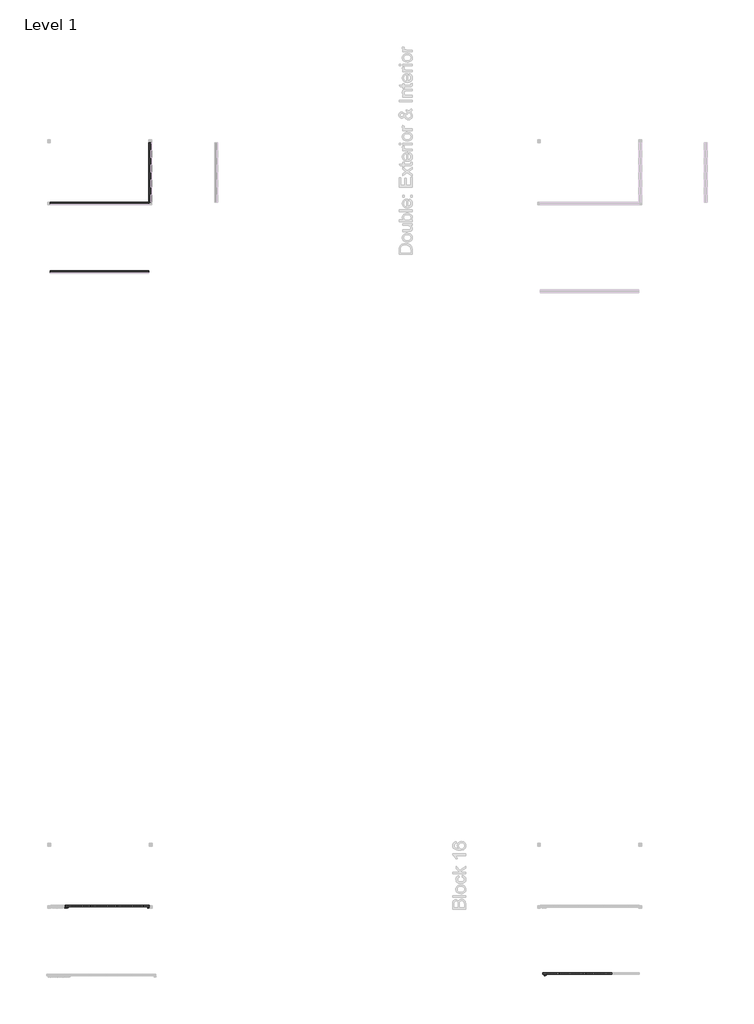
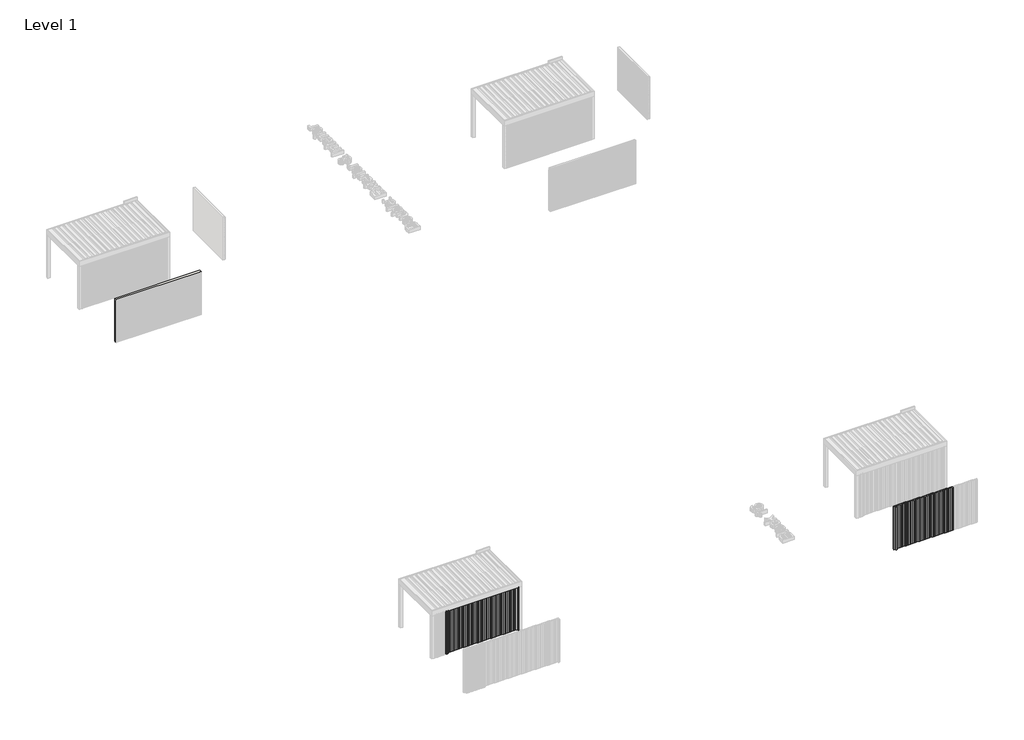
# One storey, part 2 of 47: 98 plates, 4 members, 3 walls.
"""IFC4 building model written with IfcOpenShell, lengths in millimetres."""

from ifc_helpers import new_model, si_unit, origin, origin_with_axes, place, context, project, spatial, polyline, outline, extrude, transform, mapped, element, save
from components import rectangular_mullion_d2d7e0ae, rectangular_mullion_72b57f38

model = new_model("IFC4")

# Units and contexts
model_context = context("Model", 3, world=origin())
ifc_project = project(units=[si_unit("LENGTHUNIT", "METRE", prefix="MILLI")], contexts=[model_context])

# Site, building, storey
site = spatial("IfcSite", under=ifc_project)
building = spatial("IfcBuilding", under=site)
storey = spatial("IfcBuildingStorey", under=building, Name="Level 1", Elevation=0.0)

# Members
placement = place(None, origin())
rectangular_mullion_shape = rectangular_mullion_d2d7e0ae(model_context)
element("IfcMember", 1, ObjectType="Rectangular Mullion : Renson_Linarte_LA-E25-01", at=placement, inside=storey, context=model_context, shape_type="MappedRepresentation", body=[
    mapped(rectangular_mullion_shape, transform((190202.4238388, 12609.3326462, 0.0), x_axis=(1.0, 0.0, 0.0), y_axis=(0.0, -1.0, 0.0), z_axis=(0.0, 0.0, -1.0))),
])
element("IfcMember", 2, ObjectType="Rectangular Mullion : Renson_Linarte_LA-E25-01", at=placement, inside=storey, context=model_context, shape_type="MappedRepresentation", body=[
    mapped(rectangular_mullion_shape, transform((187082.4238388, 12609.3326462, 0.0), x_axis=(1.0, 0.0, 0.0), y_axis=(0.0, -1.0, 0.0), z_axis=(0.0, 0.0, -1.0))),
])
element("IfcMember", 3, ObjectType="Rectangular Mullion : Renson_Linarte_LA-E25-01", at=placement, inside=storey, context=model_context, shape_type="MappedRepresentation", body=[
    mapped(rectangular_mullion_shape, transform((187022.4238388, 12609.3326462, 0.0), x_axis=(1.0, 0.0, 0.0), y_axis=(0.0, -1.0, 0.0), z_axis=(0.0, 0.0, -1.0))),
])
rectangular_mullion_2_shape = rectangular_mullion_72b57f38(model_context)
element("IfcMember", 4, ObjectType="Rectangular Mullion : Renson_Linarte_LA-B16-01", at=placement, inside=storey, context=model_context, shape_type="MappedRepresentation", body=[
    mapped(rectangular_mullion_2_shape, transform((205436.9839545, 10018.9412859, 0.0), x_axis=(1.0, 0.0, 0.0), y_axis=(0.0, -1.0, 0.0), z_axis=(0.0, 0.0, -1.0))),
])

# Plates
element("IfcPlate", 5, ObjectType="Base - 64mm", at=placement, inside=storey, context=model_context, shape_type="SweptSolid", body=[
    extrude(outline(polyline([(208016.9839545, 9986.9412859), (207956.9839545, 9986.9412859), (207956.9839545, 10050.9412859), (208016.9839545, 10050.9412859), (208016.9839545, 9986.9412859)])), origin_with_axes(), (0.0, 0.0, 1.0), 2000.0),
])
element("IfcPlate", 6, ObjectType="Base - 64mm", at=placement, inside=storey, context=model_context, shape_type="SweptSolid", body=[
    extrude(outline(polyline([(207956.9839545, 9986.9412859), (207896.9839545, 9986.9412859), (207896.9839545, 10050.9412859), (207956.9839545, 10050.9412859), (207956.9839545, 9986.9412859)])), origin_with_axes(), (0.0, 0.0, 1.0), 2000.0),
])
element("IfcPlate", 7, ObjectType="Base - 64mm", at=placement, inside=storey, context=model_context, shape_type="SweptSolid", body=[
    extrude(outline(polyline([(207896.9839545, 9986.9412859), (207836.9839545, 9986.9412859), (207836.9839545, 10050.9412859), (207896.9839545, 10050.9412859), (207896.9839545, 9986.9412859)])), origin_with_axes(), (0.0, 0.0, 1.0), 2000.0),
])
element("IfcPlate", 8, ObjectType="Base - 64mm", at=placement, inside=storey, context=model_context, shape_type="SweptSolid", body=[
    extrude(outline(polyline([(207836.9839545, 9986.9412859), (207776.9839545, 9986.9412859), (207776.9839545, 10050.9412859), (207836.9839545, 10050.9412859), (207836.9839545, 9986.9412859)])), origin_with_axes(), (0.0, 0.0, 1.0), 2000.0),
])
element("IfcPlate", 9, ObjectType="Base - 64mm", at=placement, inside=storey, context=model_context, shape_type="SweptSolid", body=[
    extrude(outline(polyline([(207776.9839545, 9986.9412859), (207716.9839545, 9986.9412859), (207716.9839545, 10050.9412859), (207776.9839545, 10050.9412859), (207776.9839545, 9986.9412859)])), origin_with_axes(), (0.0, 0.0, 1.0), 2000.0),
])
element("IfcPlate", 10, ObjectType="Base - 64mm", at=placement, inside=storey, context=model_context, shape_type="SweptSolid", body=[
    extrude(outline(polyline([(207716.9839545, 9986.9412859), (207656.9839545, 9986.9412859), (207656.9839545, 10050.9412859), (207716.9839545, 10050.9412859), (207716.9839545, 9986.9412859)])), origin_with_axes(), (0.0, 0.0, 1.0), 2000.0),
])
element("IfcPlate", 11, ObjectType="Base - 64mm", at=placement, inside=storey, context=model_context, shape_type="SweptSolid", body=[
    extrude(outline(polyline([(207656.9839545, 9986.9412859), (207596.9839545, 9986.9412859), (207596.9839545, 10050.9412859), (207656.9839545, 10050.9412859), (207656.9839545, 9986.9412859)])), origin_with_axes(), (0.0, 0.0, 1.0), 2000.0),
])
element("IfcPlate", 12, ObjectType="Base - 64mm", at=placement, inside=storey, context=model_context, shape_type="SweptSolid", body=[
    extrude(outline(polyline([(207596.9839545, 9986.9412859), (207536.9839545, 9986.9412859), (207536.9839545, 10050.9412859), (207596.9839545, 10050.9412859), (207596.9839545, 9986.9412859)])), origin_with_axes(), (0.0, 0.0, 1.0), 2000.0),
])
element("IfcPlate", 13, ObjectType="Base - 64mm", at=placement, inside=storey, context=model_context, shape_type="SweptSolid", body=[
    extrude(outline(polyline([(207536.9839545, 9986.9412859), (207476.9839545, 9986.9412859), (207476.9839545, 10050.9412859), (207536.9839545, 10050.9412859), (207536.9839545, 9986.9412859)])), origin_with_axes(), (0.0, 0.0, 1.0), 2000.0),
])
element("IfcPlate", 14, ObjectType="Base - 64mm", at=placement, inside=storey, context=model_context, shape_type="SweptSolid", body=[
    extrude(outline(polyline([(207476.9839545, 9986.9412859), (207416.9839545, 9986.9412859), (207416.9839545, 10050.9412859), (207476.9839545, 10050.9412859), (207476.9839545, 9986.9412859)])), origin_with_axes(), (0.0, 0.0, 1.0), 2000.0),
])
element("IfcPlate", 15, ObjectType="Base - 64mm", at=placement, inside=storey, context=model_context, shape_type="SweptSolid", body=[
    extrude(outline(polyline([(207416.9839545, 9986.9412859), (207356.9839545, 9986.9412859), (207356.9839545, 10050.9412859), (207416.9839545, 10050.9412859), (207416.9839545, 9986.9412859)])), origin_with_axes(), (0.0, 0.0, 1.0), 2000.0),
])
element("IfcPlate", 16, ObjectType="Base - 64mm", at=placement, inside=storey, context=model_context, shape_type="SweptSolid", body=[
    extrude(outline(polyline([(207356.9839545, 9986.9412859), (207296.9839545, 9986.9412859), (207296.9839545, 10050.9412859), (207356.9839545, 10050.9412859), (207356.9839545, 9986.9412859)])), origin_with_axes(), (0.0, 0.0, 1.0), 2000.0),
])
element("IfcPlate", 17, ObjectType="Base - 64mm", at=placement, inside=storey, context=model_context, shape_type="SweptSolid", body=[
    extrude(outline(polyline([(207296.9839545, 9986.9412859), (207236.9839545, 9986.9412859), (207236.9839545, 10050.9412859), (207296.9839545, 10050.9412859), (207296.9839545, 9986.9412859)])), origin_with_axes(), (0.0, 0.0, 1.0), 2000.0),
])
element("IfcPlate", 18, ObjectType="Base - 64mm", at=placement, inside=storey, context=model_context, shape_type="SweptSolid", body=[
    extrude(outline(polyline([(207236.9839545, 9986.9412859), (207176.9839545, 9986.9412859), (207176.9839545, 10050.9412859), (207236.9839545, 10050.9412859), (207236.9839545, 9986.9412859)])), origin_with_axes(), (0.0, 0.0, 1.0), 2000.0),
])
element("IfcPlate", 19, ObjectType="Base - 64mm", at=placement, inside=storey, context=model_context, shape_type="SweptSolid", body=[
    extrude(outline(polyline([(207176.9839545, 9986.9412859), (207116.9839545, 9986.9412859), (207116.9839545, 10050.9412859), (207176.9839545, 10050.9412859), (207176.9839545, 9986.9412859)])), origin_with_axes(), (0.0, 0.0, 1.0), 2000.0),
])
element("IfcPlate", 20, ObjectType="Base - 64mm", at=placement, inside=storey, context=model_context, shape_type="SweptSolid", body=[
    extrude(outline(polyline([(207116.9839545, 9986.9412859), (207056.9839545, 9986.9412859), (207056.9839545, 10050.9412859), (207116.9839545, 10050.9412859), (207116.9839545, 9986.9412859)])), origin_with_axes(), (0.0, 0.0, 1.0), 2000.0),
])
element("IfcPlate", 21, ObjectType="Base - 64mm", at=placement, inside=storey, context=model_context, shape_type="SweptSolid", body=[
    extrude(outline(polyline([(207056.9839545, 9986.9412859), (206996.9839545, 9986.9412859), (206996.9839545, 10050.9412859), (207056.9839545, 10050.9412859), (207056.9839545, 9986.9412859)])), origin_with_axes(), (0.0, 0.0, 1.0), 2000.0),
])
element("IfcPlate", 22, ObjectType="Base - 64mm", at=placement, inside=storey, context=model_context, shape_type="SweptSolid", body=[
    extrude(outline(polyline([(206996.9839545, 9986.9412859), (206936.9839545, 9986.9412859), (206936.9839545, 10050.9412859), (206996.9839545, 10050.9412859), (206996.9839545, 9986.9412859)])), origin_with_axes(), (0.0, 0.0, 1.0), 2000.0),
])
element("IfcPlate", 23, ObjectType="Base - 64mm", at=placement, inside=storey, context=model_context, shape_type="SweptSolid", body=[
    extrude(outline(polyline([(206936.9839545, 9986.9412859), (206876.9839545, 9986.9412859), (206876.9839545, 10050.9412859), (206936.9839545, 10050.9412859), (206936.9839545, 9986.9412859)])), origin_with_axes(), (0.0, 0.0, 1.0), 2000.0),
])
element("IfcPlate", 24, ObjectType="Base - 64mm", at=placement, inside=storey, context=model_context, shape_type="SweptSolid", body=[
    extrude(outline(polyline([(206876.9839545, 9986.9412859), (206816.9839545, 9986.9412859), (206816.9839545, 10050.9412859), (206876.9839545, 10050.9412859), (206876.9839545, 9986.9412859)])), origin_with_axes(), (0.0, 0.0, 1.0), 2000.0),
])
element("IfcPlate", 25, ObjectType="Base - 64mm", at=placement, inside=storey, context=model_context, shape_type="SweptSolid", body=[
    extrude(outline(polyline([(206816.9839545, 9986.9412859), (206756.9839545, 9986.9412859), (206756.9839545, 10050.9412859), (206816.9839545, 10050.9412859), (206816.9839545, 9986.9412859)])), origin_with_axes(), (0.0, 0.0, 1.0), 2000.0),
])
element("IfcPlate", 26, ObjectType="Base - 64mm", at=placement, inside=storey, context=model_context, shape_type="SweptSolid", body=[
    extrude(outline(polyline([(206756.9839545, 9986.9412859), (206696.9839545, 9986.9412859), (206696.9839545, 10050.9412859), (206756.9839545, 10050.9412859), (206756.9839545, 9986.9412859)])), origin_with_axes(), (0.0, 0.0, 1.0), 2000.0),
])
element("IfcPlate", 27, ObjectType="Base - 64mm", at=placement, inside=storey, context=model_context, shape_type="SweptSolid", body=[
    extrude(outline(polyline([(206696.9839545, 9986.9412859), (206636.9839545, 9986.9412859), (206636.9839545, 10050.9412859), (206696.9839545, 10050.9412859), (206696.9839545, 9986.9412859)])), origin_with_axes(), (0.0, 0.0, 1.0), 2000.0),
])
element("IfcPlate", 28, ObjectType="Base - 64mm", at=placement, inside=storey, context=model_context, shape_type="SweptSolid", body=[
    extrude(outline(polyline([(206636.9839545, 9986.9412859), (206576.9839545, 9986.9412859), (206576.9839545, 10050.9412859), (206636.9839545, 10050.9412859), (206636.9839545, 9986.9412859)])), origin_with_axes(), (0.0, 0.0, 1.0), 2000.0),
])
element("IfcPlate", 29, ObjectType="Base - 64mm", at=placement, inside=storey, context=model_context, shape_type="SweptSolid", body=[
    extrude(outline(polyline([(206576.9839545, 9986.9412859), (206516.9839545, 9986.9412859), (206516.9839545, 10050.9412859), (206576.9839545, 10050.9412859), (206576.9839545, 9986.9412859)])), origin_with_axes(), (0.0, 0.0, 1.0), 2000.0),
])
element("IfcPlate", 30, ObjectType="Base - 64mm", at=placement, inside=storey, context=model_context, shape_type="SweptSolid", body=[
    extrude(outline(polyline([(206516.9839545, 9986.9412859), (206456.9839545, 9986.9412859), (206456.9839545, 10050.9412859), (206516.9839545, 10050.9412859), (206516.9839545, 9986.9412859)])), origin_with_axes(), (0.0, 0.0, 1.0), 2000.0),
])
element("IfcPlate", 31, ObjectType="Base - 64mm", at=placement, inside=storey, context=model_context, shape_type="SweptSolid", body=[
    extrude(outline(polyline([(206456.9839545, 9986.9412859), (206396.9839545, 9986.9412859), (206396.9839545, 10050.9412859), (206456.9839545, 10050.9412859), (206456.9839545, 9986.9412859)])), origin_with_axes(), (0.0, 0.0, 1.0), 2000.0),
])
element("IfcPlate", 32, ObjectType="Base - 64mm", at=placement, inside=storey, context=model_context, shape_type="SweptSolid", body=[
    extrude(outline(polyline([(206396.9839545, 9986.9412859), (206336.9839545, 9986.9412859), (206336.9839545, 10050.9412859), (206396.9839545, 10050.9412859), (206396.9839545, 9986.9412859)])), origin_with_axes(), (0.0, 0.0, 1.0), 2000.0),
])
element("IfcPlate", 33, ObjectType="Base - 64mm", at=placement, inside=storey, context=model_context, shape_type="SweptSolid", body=[
    extrude(outline(polyline([(206336.9839545, 9986.9412859), (206276.9839545, 9986.9412859), (206276.9839545, 10050.9412859), (206336.9839545, 10050.9412859), (206336.9839545, 9986.9412859)])), origin_with_axes(), (0.0, 0.0, 1.0), 2000.0),
])
element("IfcPlate", 34, ObjectType="Base - 64mm", at=placement, inside=storey, context=model_context, shape_type="SweptSolid", body=[
    extrude(outline(polyline([(206276.9839545, 9986.9412859), (206216.9839545, 9986.9412859), (206216.9839545, 10050.9412859), (206276.9839545, 10050.9412859), (206276.9839545, 9986.9412859)])), origin_with_axes(), (0.0, 0.0, 1.0), 2000.0),
])
element("IfcPlate", 35, ObjectType="Base - 64mm", at=placement, inside=storey, context=model_context, shape_type="SweptSolid", body=[
    extrude(outline(polyline([(206216.9839545, 9986.9412859), (206156.9839545, 9986.9412859), (206156.9839545, 10050.9412859), (206216.9839545, 10050.9412859), (206216.9839545, 9986.9412859)])), origin_with_axes(), (0.0, 0.0, 1.0), 2000.0),
])
element("IfcPlate", 36, ObjectType="Base - 64mm", at=placement, inside=storey, context=model_context, shape_type="SweptSolid", body=[
    extrude(outline(polyline([(206156.9839545, 9986.9412859), (206096.9839545, 9986.9412859), (206096.9839545, 10050.9412859), (206156.9839545, 10050.9412859), (206156.9839545, 9986.9412859)])), origin_with_axes(), (0.0, 0.0, 1.0), 2000.0),
])
element("IfcPlate", 37, ObjectType="Base - 64mm", at=placement, inside=storey, context=model_context, shape_type="SweptSolid", body=[
    extrude(outline(polyline([(206096.9839545, 9986.9412859), (206036.9839545, 9986.9412859), (206036.9839545, 10050.9412859), (206096.9839545, 10050.9412859), (206096.9839545, 9986.9412859)])), origin_with_axes(), (0.0, 0.0, 1.0), 2000.0),
])
element("IfcPlate", 38, ObjectType="Base - 64mm", at=placement, inside=storey, context=model_context, shape_type="SweptSolid", body=[
    extrude(outline(polyline([(206036.9839545, 9986.9412859), (205976.9839545, 9986.9412859), (205976.9839545, 10050.9412859), (206036.9839545, 10050.9412859), (206036.9839545, 9986.9412859)])), origin_with_axes(), (0.0, 0.0, 1.0), 2000.0),
])
element("IfcPlate", 39, ObjectType="Base - 64mm", at=placement, inside=storey, context=model_context, shape_type="SweptSolid", body=[
    extrude(outline(polyline([(205976.9839545, 9986.9412859), (205916.9839545, 9986.9412859), (205916.9839545, 10050.9412859), (205976.9839545, 10050.9412859), (205976.9839545, 9986.9412859)])), origin_with_axes(), (0.0, 0.0, 1.0), 2000.0),
])
element("IfcPlate", 40, ObjectType="Base - 64mm", at=placement, inside=storey, context=model_context, shape_type="SweptSolid", body=[
    extrude(outline(polyline([(205916.9839545, 9986.9412859), (205856.9839545, 9986.9412859), (205856.9839545, 10050.9412859), (205916.9839545, 10050.9412859), (205916.9839545, 9986.9412859)])), origin_with_axes(), (0.0, 0.0, 1.0), 2000.0),
])
element("IfcPlate", 41, ObjectType="Base - 64mm", at=placement, inside=storey, context=model_context, shape_type="SweptSolid", body=[
    extrude(outline(polyline([(205856.9839545, 9986.9412859), (205796.9839545, 9986.9412859), (205796.9839545, 10050.9412859), (205856.9839545, 10050.9412859), (205856.9839545, 9986.9412859)])), origin_with_axes(), (0.0, 0.0, 1.0), 2000.0),
])
element("IfcPlate", 42, ObjectType="Base - 64mm", at=placement, inside=storey, context=model_context, shape_type="SweptSolid", body=[
    extrude(outline(polyline([(205796.9839545, 9986.9412859), (205736.9839545, 9986.9412859), (205736.9839545, 10050.9412859), (205796.9839545, 10050.9412859), (205796.9839545, 9986.9412859)])), origin_with_axes(), (0.0, 0.0, 1.0), 2000.0),
])
element("IfcPlate", 43, ObjectType="Base - 64mm", at=placement, inside=storey, context=model_context, shape_type="SweptSolid", body=[
    extrude(outline(polyline([(205736.9839545, 9986.9412859), (205676.9839545, 9986.9412859), (205676.9839545, 10050.9412859), (205736.9839545, 10050.9412859), (205736.9839545, 9986.9412859)])), origin_with_axes(), (0.0, 0.0, 1.0), 2000.0),
])
element("IfcPlate", 44, ObjectType="Base - 64mm", at=placement, inside=storey, context=model_context, shape_type="SweptSolid", body=[
    extrude(outline(polyline([(205676.9839545, 9986.9412859), (205616.9839545, 9986.9412859), (205616.9839545, 10050.9412859), (205676.9839545, 10050.9412859), (205676.9839545, 9986.9412859)])), origin_with_axes(), (0.0, 0.0, 1.0), 2000.0),
])
element("IfcPlate", 45, ObjectType="Base - 64mm", at=placement, inside=storey, context=model_context, shape_type="SweptSolid", body=[
    extrude(outline(polyline([(205616.9839545, 9986.9412859), (205556.9839545, 9986.9412859), (205556.9839545, 10050.9412859), (205616.9839545, 10050.9412859), (205616.9839545, 9986.9412859)])), origin_with_axes(), (0.0, 0.0, 1.0), 2000.0),
])
element("IfcPlate", 46, ObjectType="Base - 64mm", at=placement, inside=storey, context=model_context, shape_type="SweptSolid", body=[
    extrude(outline(polyline([(205556.9839545, 9986.9412859), (205496.9839545, 9986.9412859), (205496.9839545, 10050.9412859), (205556.9839545, 10050.9412859), (205556.9839545, 9986.9412859)])), origin_with_axes(), (0.0, 0.0, 1.0), 2000.0),
])
element("IfcPlate", 47, ObjectType="Base - 64mm", at=placement, inside=storey, context=model_context, shape_type="SweptSolid", body=[
    extrude(outline(polyline([(190202.4238388, 12577.3326462), (190142.4238388, 12577.3326462), (190142.4238388, 12641.3326462), (190202.4238388, 12641.3326462), (190202.4238388, 12577.3326462)])), origin_with_axes(), (0.0, 0.0, 1.0), 2000.0),
])
element("IfcPlate", 48, ObjectType="Base - 64mm", at=placement, inside=storey, context=model_context, shape_type="SweptSolid", body=[
    extrude(outline(polyline([(190142.4238388, 12577.3326462), (190082.4238388, 12577.3326462), (190082.4238388, 12641.3326462), (190142.4238388, 12641.3326462), (190142.4238388, 12577.3326462)])), origin_with_axes(), (0.0, 0.0, 1.0), 2000.0),
])
element("IfcPlate", 49, ObjectType="Base - 64mm", at=placement, inside=storey, context=model_context, shape_type="SweptSolid", body=[
    extrude(outline(polyline([(190082.4238388, 12577.3326462), (190022.4238388, 12577.3326462), (190022.4238388, 12641.3326462), (190082.4238388, 12641.3326462), (190082.4238388, 12577.3326462)])), origin_with_axes(), (0.0, 0.0, 1.0), 2000.0),
])
element("IfcPlate", 50, ObjectType="Base - 64mm", at=placement, inside=storey, context=model_context, shape_type="SweptSolid", body=[
    extrude(outline(polyline([(190022.4238388, 12577.3326462), (189962.4238388, 12577.3326462), (189962.4238388, 12641.3326462), (190022.4238388, 12641.3326462), (190022.4238388, 12577.3326462)])), origin_with_axes(), (0.0, 0.0, 1.0), 2000.0),
])
element("IfcPlate", 51, ObjectType="Base - 64mm", at=placement, inside=storey, context=model_context, shape_type="SweptSolid", body=[
    extrude(outline(polyline([(189962.4238388, 12577.3326462), (189902.4238388, 12577.3326462), (189902.4238388, 12641.3326462), (189962.4238388, 12641.3326462), (189962.4238388, 12577.3326462)])), origin_with_axes(), (0.0, 0.0, 1.0), 2000.0),
])
element("IfcPlate", 52, ObjectType="Base - 64mm", at=placement, inside=storey, context=model_context, shape_type="SweptSolid", body=[
    extrude(outline(polyline([(189902.4238388, 12577.3326462), (189842.4238388, 12577.3326462), (189842.4238388, 12641.3326462), (189902.4238388, 12641.3326462), (189902.4238388, 12577.3326462)])), origin_with_axes(), (0.0, 0.0, 1.0), 2000.0),
])
element("IfcPlate", 53, ObjectType="Base - 64mm", at=placement, inside=storey, context=model_context, shape_type="SweptSolid", body=[
    extrude(outline(polyline([(189842.4238388, 12577.3326462), (189782.4238388, 12577.3326462), (189782.4238388, 12641.3326462), (189842.4238388, 12641.3326462), (189842.4238388, 12577.3326462)])), origin_with_axes(), (0.0, 0.0, 1.0), 2000.0),
])
element("IfcPlate", 54, ObjectType="Base - 64mm", at=placement, inside=storey, context=model_context, shape_type="SweptSolid", body=[
    extrude(outline(polyline([(189782.4238388, 12577.3326462), (189722.4238388, 12577.3326462), (189722.4238388, 12641.3326462), (189782.4238388, 12641.3326462), (189782.4238388, 12577.3326462)])), origin_with_axes(), (0.0, 0.0, 1.0), 2000.0),
])
element("IfcPlate", 55, ObjectType="Base - 64mm", at=placement, inside=storey, context=model_context, shape_type="SweptSolid", body=[
    extrude(outline(polyline([(189722.4238388, 12577.3326462), (189662.4238388, 12577.3326462), (189662.4238388, 12641.3326462), (189722.4238388, 12641.3326462), (189722.4238388, 12577.3326462)])), origin_with_axes(), (0.0, 0.0, 1.0), 2000.0),
])
element("IfcPlate", 56, ObjectType="Base - 64mm", at=placement, inside=storey, context=model_context, shape_type="SweptSolid", body=[
    extrude(outline(polyline([(189662.4238388, 12577.3326462), (189602.4238388, 12577.3326462), (189602.4238388, 12641.3326462), (189662.4238388, 12641.3326462), (189662.4238388, 12577.3326462)])), origin_with_axes(), (0.0, 0.0, 1.0), 2000.0),
])
element("IfcPlate", 57, ObjectType="Base - 64mm", at=placement, inside=storey, context=model_context, shape_type="SweptSolid", body=[
    extrude(outline(polyline([(189602.4238388, 12577.3326462), (189542.4238388, 12577.3326462), (189542.4238388, 12641.3326462), (189602.4238388, 12641.3326462), (189602.4238388, 12577.3326462)])), origin_with_axes(), (0.0, 0.0, 1.0), 2000.0),
])
element("IfcPlate", 58, ObjectType="Base - 64mm", at=placement, inside=storey, context=model_context, shape_type="SweptSolid", body=[
    extrude(outline(polyline([(189542.4238388, 12577.3326462), (189482.4238388, 12577.3326462), (189482.4238388, 12641.3326462), (189542.4238388, 12641.3326462), (189542.4238388, 12577.3326462)])), origin_with_axes(), (0.0, 0.0, 1.0), 2000.0),
])
element("IfcPlate", 59, ObjectType="Base - 64mm", at=placement, inside=storey, context=model_context, shape_type="SweptSolid", body=[
    extrude(outline(polyline([(189482.4238388, 12577.3326462), (189422.4238388, 12577.3326462), (189422.4238388, 12641.3326462), (189482.4238388, 12641.3326462), (189482.4238388, 12577.3326462)])), origin_with_axes(), (0.0, 0.0, 1.0), 2000.0),
])
element("IfcPlate", 60, ObjectType="Base - 64mm", at=placement, inside=storey, context=model_context, shape_type="SweptSolid", body=[
    extrude(outline(polyline([(189422.4238388, 12577.3326462), (189362.4238388, 12577.3326462), (189362.4238388, 12641.3326462), (189422.4238388, 12641.3326462), (189422.4238388, 12577.3326462)])), origin_with_axes(), (0.0, 0.0, 1.0), 2000.0),
])
element("IfcPlate", 61, ObjectType="Base - 64mm", at=placement, inside=storey, context=model_context, shape_type="SweptSolid", body=[
    extrude(outline(polyline([(189362.4238388, 12577.3326462), (189302.4238388, 12577.3326462), (189302.4238388, 12641.3326462), (189362.4238388, 12641.3326462), (189362.4238388, 12577.3326462)])), origin_with_axes(), (0.0, 0.0, 1.0), 2000.0),
])
element("IfcPlate", 62, ObjectType="Base - 64mm", at=placement, inside=storey, context=model_context, shape_type="SweptSolid", body=[
    extrude(outline(polyline([(189302.4238388, 12577.3326462), (189242.4238388, 12577.3326462), (189242.4238388, 12641.3326462), (189302.4238388, 12641.3326462), (189302.4238388, 12577.3326462)])), origin_with_axes(), (0.0, 0.0, 1.0), 2000.0),
])
element("IfcPlate", 63, ObjectType="Base - 64mm", at=placement, inside=storey, context=model_context, shape_type="SweptSolid", body=[
    extrude(outline(polyline([(189242.4238388, 12577.3326462), (189182.4238388, 12577.3326462), (189182.4238388, 12641.3326462), (189242.4238388, 12641.3326462), (189242.4238388, 12577.3326462)])), origin_with_axes(), (0.0, 0.0, 1.0), 2000.0),
])
element("IfcPlate", 64, ObjectType="Base - 64mm", at=placement, inside=storey, context=model_context, shape_type="SweptSolid", body=[
    extrude(outline(polyline([(189182.4238388, 12577.3326462), (189122.4238388, 12577.3326462), (189122.4238388, 12641.3326462), (189182.4238388, 12641.3326462), (189182.4238388, 12577.3326462)])), origin_with_axes(), (0.0, 0.0, 1.0), 2000.0),
])
element("IfcPlate", 65, ObjectType="Base - 64mm", at=placement, inside=storey, context=model_context, shape_type="SweptSolid", body=[
    extrude(outline(polyline([(189122.4238388, 12577.3326462), (189062.4238388, 12577.3326462), (189062.4238388, 12641.3326462), (189122.4238388, 12641.3326462), (189122.4238388, 12577.3326462)])), origin_with_axes(), (0.0, 0.0, 1.0), 2000.0),
])
element("IfcPlate", 66, ObjectType="Base - 64mm", at=placement, inside=storey, context=model_context, shape_type="SweptSolid", body=[
    extrude(outline(polyline([(189062.4238388, 12577.3326462), (189002.4238388, 12577.3326462), (189002.4238388, 12641.3326462), (189062.4238388, 12641.3326462), (189062.4238388, 12577.3326462)])), origin_with_axes(), (0.0, 0.0, 1.0), 2000.0),
])
element("IfcPlate", 67, ObjectType="Base - 64mm", at=placement, inside=storey, context=model_context, shape_type="SweptSolid", body=[
    extrude(outline(polyline([(189002.4238388, 12577.3326462), (188942.4238388, 12577.3326462), (188942.4238388, 12641.3326462), (189002.4238388, 12641.3326462), (189002.4238388, 12577.3326462)])), origin_with_axes(), (0.0, 0.0, 1.0), 2000.0),
])
element("IfcPlate", 68, ObjectType="Base - 64mm", at=placement, inside=storey, context=model_context, shape_type="SweptSolid", body=[
    extrude(outline(polyline([(188942.4238388, 12577.3326462), (188882.4238388, 12577.3326462), (188882.4238388, 12641.3326462), (188942.4238388, 12641.3326462), (188942.4238388, 12577.3326462)])), origin_with_axes(), (0.0, 0.0, 1.0), 2000.0),
])
element("IfcPlate", 69, ObjectType="Base - 64mm", at=placement, inside=storey, context=model_context, shape_type="SweptSolid", body=[
    extrude(outline(polyline([(188882.4238388, 12577.3326462), (188822.4238388, 12577.3326462), (188822.4238388, 12641.3326462), (188882.4238388, 12641.3326462), (188882.4238388, 12577.3326462)])), origin_with_axes(), (0.0, 0.0, 1.0), 2000.0),
])
element("IfcPlate", 70, ObjectType="Base - 64mm", at=placement, inside=storey, context=model_context, shape_type="SweptSolid", body=[
    extrude(outline(polyline([(188822.4238388, 12577.3326462), (188762.4238388, 12577.3326462), (188762.4238388, 12641.3326462), (188822.4238388, 12641.3326462), (188822.4238388, 12577.3326462)])), origin_with_axes(), (0.0, 0.0, 1.0), 2000.0),
])
element("IfcPlate", 71, ObjectType="Base - 64mm", at=placement, inside=storey, context=model_context, shape_type="SweptSolid", body=[
    extrude(outline(polyline([(188762.4238388, 12577.3326462), (188702.4238388, 12577.3326462), (188702.4238388, 12641.3326462), (188762.4238388, 12641.3326462), (188762.4238388, 12577.3326462)])), origin_with_axes(), (0.0, 0.0, 1.0), 2000.0),
])
element("IfcPlate", 72, ObjectType="Base - 64mm", at=placement, inside=storey, context=model_context, shape_type="SweptSolid", body=[
    extrude(outline(polyline([(188702.4238388, 12577.3326462), (188642.4238388, 12577.3326462), (188642.4238388, 12641.3326462), (188702.4238388, 12641.3326462), (188702.4238388, 12577.3326462)])), origin_with_axes(), (0.0, 0.0, 1.0), 2000.0),
])
element("IfcPlate", 73, ObjectType="Base - 64mm", at=placement, inside=storey, context=model_context, shape_type="SweptSolid", body=[
    extrude(outline(polyline([(188642.4238388, 12577.3326462), (188582.4238388, 12577.3326462), (188582.4238388, 12641.3326462), (188642.4238388, 12641.3326462), (188642.4238388, 12577.3326462)])), origin_with_axes(), (0.0, 0.0, 1.0), 2000.0),
])
element("IfcPlate", 74, ObjectType="Base - 64mm", at=placement, inside=storey, context=model_context, shape_type="SweptSolid", body=[
    extrude(outline(polyline([(188582.4238388, 12577.3326462), (188522.4238388, 12577.3326462), (188522.4238388, 12641.3326462), (188582.4238388, 12641.3326462), (188582.4238388, 12577.3326462)])), origin_with_axes(), (0.0, 0.0, 1.0), 2000.0),
])
element("IfcPlate", 75, ObjectType="Base - 64mm", at=placement, inside=storey, context=model_context, shape_type="SweptSolid", body=[
    extrude(outline(polyline([(188522.4238388, 12577.3326462), (188462.4238388, 12577.3326462), (188462.4238388, 12641.3326462), (188522.4238388, 12641.3326462), (188522.4238388, 12577.3326462)])), origin_with_axes(), (0.0, 0.0, 1.0), 2000.0),
])
element("IfcPlate", 76, ObjectType="Base - 64mm", at=placement, inside=storey, context=model_context, shape_type="SweptSolid", body=[
    extrude(outline(polyline([(188462.4238388, 12577.3326462), (188402.4238388, 12577.3326462), (188402.4238388, 12641.3326462), (188462.4238388, 12641.3326462), (188462.4238388, 12577.3326462)])), origin_with_axes(), (0.0, 0.0, 1.0), 2000.0),
])
element("IfcPlate", 77, ObjectType="Base - 64mm", at=placement, inside=storey, context=model_context, shape_type="SweptSolid", body=[
    extrude(outline(polyline([(188402.4238388, 12577.3326462), (188342.4238388, 12577.3326462), (188342.4238388, 12641.3326462), (188402.4238388, 12641.3326462), (188402.4238388, 12577.3326462)])), origin_with_axes(), (0.0, 0.0, 1.0), 2000.0),
])
element("IfcPlate", 78, ObjectType="Base - 64mm", at=placement, inside=storey, context=model_context, shape_type="SweptSolid", body=[
    extrude(outline(polyline([(188342.4238388, 12577.3326462), (188282.4238388, 12577.3326462), (188282.4238388, 12641.3326462), (188342.4238388, 12641.3326462), (188342.4238388, 12577.3326462)])), origin_with_axes(), (0.0, 0.0, 1.0), 2000.0),
])
element("IfcPlate", 79, ObjectType="Base - 64mm", at=placement, inside=storey, context=model_context, shape_type="SweptSolid", body=[
    extrude(outline(polyline([(188282.4238388, 12577.3326462), (188222.4238388, 12577.3326462), (188222.4238388, 12641.3326462), (188282.4238388, 12641.3326462), (188282.4238388, 12577.3326462)])), origin_with_axes(), (0.0, 0.0, 1.0), 2000.0),
])
element("IfcPlate", 80, ObjectType="Base - 64mm", at=placement, inside=storey, context=model_context, shape_type="SweptSolid", body=[
    extrude(outline(polyline([(188222.4238388, 12577.3326462), (188162.4238388, 12577.3326462), (188162.4238388, 12641.3326462), (188222.4238388, 12641.3326462), (188222.4238388, 12577.3326462)])), origin_with_axes(), (0.0, 0.0, 1.0), 2000.0),
])
element("IfcPlate", 81, ObjectType="Base - 64mm", at=placement, inside=storey, context=model_context, shape_type="SweptSolid", body=[
    extrude(outline(polyline([(188162.4238388, 12577.3326462), (188102.4238388, 12577.3326462), (188102.4238388, 12641.3326462), (188162.4238388, 12641.3326462), (188162.4238388, 12577.3326462)])), origin_with_axes(), (0.0, 0.0, 1.0), 2000.0),
])
element("IfcPlate", 82, ObjectType="Base - 64mm", at=placement, inside=storey, context=model_context, shape_type="SweptSolid", body=[
    extrude(outline(polyline([(188102.4238388, 12577.3326462), (188042.4238388, 12577.3326462), (188042.4238388, 12641.3326462), (188102.4238388, 12641.3326462), (188102.4238388, 12577.3326462)])), origin_with_axes(), (0.0, 0.0, 1.0), 2000.0),
])
element("IfcPlate", 83, ObjectType="Base - 64mm", at=placement, inside=storey, context=model_context, shape_type="SweptSolid", body=[
    extrude(outline(polyline([(188042.4238388, 12577.3326462), (187982.4238388, 12577.3326462), (187982.4238388, 12641.3326462), (188042.4238388, 12641.3326462), (188042.4238388, 12577.3326462)])), origin_with_axes(), (0.0, 0.0, 1.0), 2000.0),
])
element("IfcPlate", 84, ObjectType="Base - 64mm", at=placement, inside=storey, context=model_context, shape_type="SweptSolid", body=[
    extrude(outline(polyline([(187982.4238388, 12577.3326462), (187922.4238388, 12577.3326462), (187922.4238388, 12641.3326462), (187982.4238388, 12641.3326462), (187982.4238388, 12577.3326462)])), origin_with_axes(), (0.0, 0.0, 1.0), 2000.0),
])
element("IfcPlate", 85, ObjectType="Base - 64mm", at=placement, inside=storey, context=model_context, shape_type="SweptSolid", body=[
    extrude(outline(polyline([(187922.4238388, 12577.3326462), (187862.4238388, 12577.3326462), (187862.4238388, 12641.3326462), (187922.4238388, 12641.3326462), (187922.4238388, 12577.3326462)])), origin_with_axes(), (0.0, 0.0, 1.0), 2000.0),
])
element("IfcPlate", 86, ObjectType="Base - 64mm", at=placement, inside=storey, context=model_context, shape_type="SweptSolid", body=[
    extrude(outline(polyline([(187862.4238388, 12577.3326462), (187802.4238388, 12577.3326462), (187802.4238388, 12641.3326462), (187862.4238388, 12641.3326462), (187862.4238388, 12577.3326462)])), origin_with_axes(), (0.0, 0.0, 1.0), 2000.0),
])
element("IfcPlate", 87, ObjectType="Base - 64mm", at=placement, inside=storey, context=model_context, shape_type="SweptSolid", body=[
    extrude(outline(polyline([(187802.4238388, 12577.3326462), (187742.4238388, 12577.3326462), (187742.4238388, 12641.3326462), (187802.4238388, 12641.3326462), (187802.4238388, 12577.3326462)])), origin_with_axes(), (0.0, 0.0, 1.0), 2000.0),
])
element("IfcPlate", 88, ObjectType="Base - 64mm", at=placement, inside=storey, context=model_context, shape_type="SweptSolid", body=[
    extrude(outline(polyline([(187742.4238388, 12577.3326462), (187682.4238388, 12577.3326462), (187682.4238388, 12641.3326462), (187742.4238388, 12641.3326462), (187742.4238388, 12577.3326462)])), origin_with_axes(), (0.0, 0.0, 1.0), 2000.0),
])
element("IfcPlate", 89, ObjectType="Base - 64mm", at=placement, inside=storey, context=model_context, shape_type="SweptSolid", body=[
    extrude(outline(polyline([(187682.4238388, 12577.3326462), (187622.4238388, 12577.3326462), (187622.4238388, 12641.3326462), (187682.4238388, 12641.3326462), (187682.4238388, 12577.3326462)])), origin_with_axes(), (0.0, 0.0, 1.0), 2000.0),
])
element("IfcPlate", 90, ObjectType="Base - 64mm", at=placement, inside=storey, context=model_context, shape_type="SweptSolid", body=[
    extrude(outline(polyline([(187622.4238388, 12577.3326462), (187562.4238388, 12577.3326462), (187562.4238388, 12641.3326462), (187622.4238388, 12641.3326462), (187622.4238388, 12577.3326462)])), origin_with_axes(), (0.0, 0.0, 1.0), 2000.0),
])
element("IfcPlate", 91, ObjectType="Base - 64mm", at=placement, inside=storey, context=model_context, shape_type="SweptSolid", body=[
    extrude(outline(polyline([(187562.4238388, 12577.3326462), (187502.4238388, 12577.3326462), (187502.4238388, 12641.3326462), (187562.4238388, 12641.3326462), (187562.4238388, 12577.3326462)])), origin_with_axes(), (0.0, 0.0, 1.0), 2000.0),
])
element("IfcPlate", 92, ObjectType="Base - 64mm", at=placement, inside=storey, context=model_context, shape_type="SweptSolid", body=[
    extrude(outline(polyline([(187502.4238388, 12577.3326462), (187442.4238388, 12577.3326462), (187442.4238388, 12641.3326462), (187502.4238388, 12641.3326462), (187502.4238388, 12577.3326462)])), origin_with_axes(), (0.0, 0.0, 1.0), 2000.0),
])
element("IfcPlate", 93, ObjectType="Base - 64mm", at=placement, inside=storey, context=model_context, shape_type="SweptSolid", body=[
    extrude(outline(polyline([(187442.4238388, 12577.3326462), (187382.4238388, 12577.3326462), (187382.4238388, 12641.3326462), (187442.4238388, 12641.3326462), (187442.4238388, 12577.3326462)])), origin_with_axes(), (0.0, 0.0, 1.0), 2000.0),
])
element("IfcPlate", 94, ObjectType="Base - 64mm", at=placement, inside=storey, context=model_context, shape_type="SweptSolid", body=[
    extrude(outline(polyline([(187382.4238388, 12577.3326462), (187322.4238388, 12577.3326462), (187322.4238388, 12641.3326462), (187382.4238388, 12641.3326462), (187382.4238388, 12577.3326462)])), origin_with_axes(), (0.0, 0.0, 1.0), 2000.0),
])
element("IfcPlate", 95, ObjectType="Base - 64mm", at=placement, inside=storey, context=model_context, shape_type="SweptSolid", body=[
    extrude(outline(polyline([(187322.4238388, 12577.3326462), (187262.4238388, 12577.3326462), (187262.4238388, 12641.3326462), (187322.4238388, 12641.3326462), (187322.4238388, 12577.3326462)])), origin_with_axes(), (0.0, 0.0, 1.0), 2000.0),
])
element("IfcPlate", 96, ObjectType="Base - 64mm", at=placement, inside=storey, context=model_context, shape_type="SweptSolid", body=[
    extrude(outline(polyline([(187262.4238388, 12577.3326462), (187202.4238388, 12577.3326462), (187202.4238388, 12641.3326462), (187262.4238388, 12641.3326462), (187262.4238388, 12577.3326462)])), origin_with_axes(), (0.0, 0.0, 1.0), 2000.0),
])
element("IfcPlate", 97, ObjectType="Base - 64mm", at=placement, inside=storey, context=model_context, shape_type="SweptSolid", body=[
    extrude(outline(polyline([(187202.4238388, 12577.3326462), (187142.4238388, 12577.3326462), (187142.4238388, 12641.3326462), (187202.4238388, 12641.3326462), (187202.4238388, 12577.3326462)])), origin_with_axes(), (0.0, 0.0, 1.0), 2000.0),
])
element("IfcPlate", 98, ObjectType="Base - 64mm", at=placement, inside=storey, context=model_context, shape_type="SweptSolid", body=[
    extrude(outline(polyline([(187142.4238388, 12577.3326462), (187082.4238388, 12577.3326462), (187082.4238388, 12641.3326462), (187142.4238388, 12641.3326462), (187142.4238388, 12577.3326462)])), origin_with_axes(), (0.0, 0.0, 1.0), 2000.0),
])
element("IfcPlate", 99, ObjectType="Base - 64mm", at=placement, inside=storey, context=model_context, shape_type="SweptSolid", body=[
    extrude(outline(polyline([(187082.4238388, 12577.3326462), (187022.4238388, 12577.3326462), (187022.4238388, 12641.3326462), (187082.4238388, 12641.3326462), (187082.4238388, 12577.3326462)])), origin_with_axes(), (0.0, 0.0, 1.0), 2000.0),
])
element("IfcPlate", 100, ObjectType="Base - 64mm", at=placement, inside=storey, context=model_context, shape_type="SweptSolid", body=[
    extrude(outline(polyline([(190262.4238385, 12577.3326462), (190202.4238388, 12577.3326462), (190202.4238388, 12641.3326462), (190262.4238385, 12641.3326462), (190262.4238385, 12577.3326462)])), origin_with_axes(), (0.0, 0.0, 1.0), 2000.0),
])
element("IfcPlate", 101, ObjectType="Base - 64mm", at=placement, inside=storey, context=model_context, shape_type="SweptSolid", body=[
    extrude(outline(polyline([(205496.9839545, 9986.9412859), (205436.9839545, 9986.9412859), (205436.9839545, 10050.9412859), (205496.9839545, 10050.9412859), (205496.9839545, 9986.9412859)])), origin_with_axes(), (0.0, 0.0, 1.0), 2000.0),
])
element("IfcPlate", 102, ObjectType="Base - 64mm", at=placement, inside=storey, context=model_context, shape_type="SweptSolid", body=[
    extrude(outline(polyline([(205436.9839545, 9986.9412859), (205376.9839542, 9986.9412859), (205376.9839542, 10050.9412859), (205436.9839545, 10050.9412859), (205436.9839545, 9986.9412859)])), origin_with_axes(), (0.0, 0.0, 1.0), 2000.0),
])

# Walls
element("IfcWall", 103, ObjectType="Linius - L.033.01_renson_single", at=placement, inside=storey, context=model_context, shape_type="SweptSolid", body=[
    extrude(outline(polyline([(186472.4238385, 37000.3757764), (190252.4238385, 37000.3757764), (190252.4238385, 36911.7757764), (186472.4238385, 36911.7757764), (186472.4238385, 37000.3757764)])), origin_with_axes(), (0.0, 0.0, 1.0), 2000.0),
])
element("IfcWall", 104, ObjectType="Linius - L.033.01_renson_single", at=placement, inside=storey, context=model_context, shape_type="SweptSolid", body=[
    extrude(outline(polyline([(186472.4238385, 39632.1593685), (190252.4238385, 39632.1593685), (190252.4238385, 39543.5593685), (186472.4238385, 39543.5593685), (186472.4238385, 39632.1593685)])), origin_with_axes(), (0.0, 0.0, 1.0), 2000.0),
])
element("IfcWall", 105, ObjectType="Linius - L.033.01_renson_single", at=placement, inside=storey, context=model_context, shape_type="SweptSolid", body=[
    extrude(outline(polyline([(190341.0238385, 41912.1593685), (190341.0238385, 39632.1593685), (190252.4238385, 39632.1593685), (190252.4238385, 41912.1593685), (190341.0238385, 41912.1593685)])), origin_with_axes(), (0.0, 0.0, 1.0), 2000.0),
])

save(model, "model.ifc")
